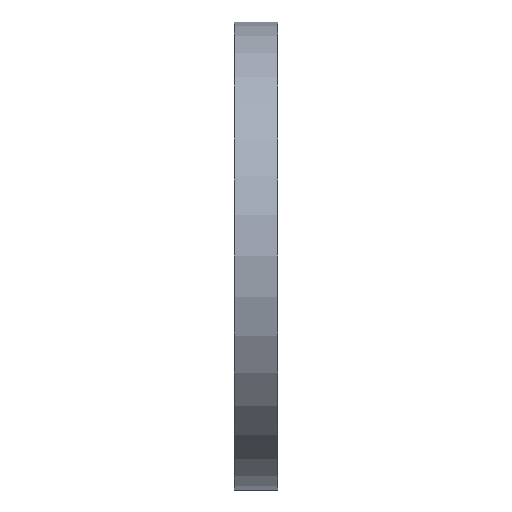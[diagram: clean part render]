
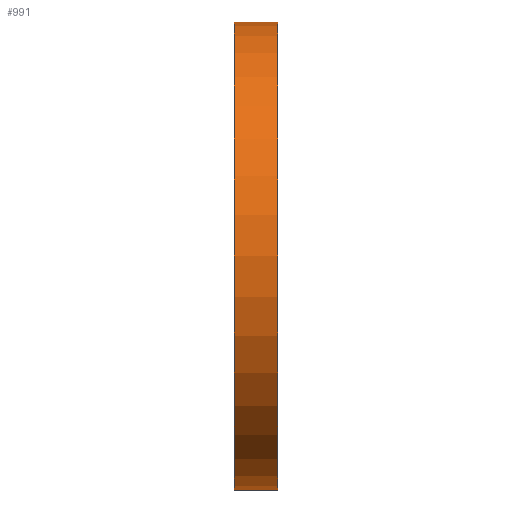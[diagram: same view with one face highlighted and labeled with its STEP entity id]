
A CAD part, left-side view. The second image highlights one B-rep face of the part: STEP entity #991.
In plain terms, the highlighted cylindrical face has radius 225 mm (diameter 450 mm), a partial arc.
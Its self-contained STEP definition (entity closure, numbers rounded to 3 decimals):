
#16 = EDGE_CURVE ( 'NONE', #773, #830, #1001, .T. ) ;
#59 = VERTEX_POINT ( 'NONE', #635 ) ;
#67 = EDGE_LOOP ( 'NONE', ( #336, #511, #1079, #408 ) ) ;
#75 = DIRECTION ( 'NONE',  ( 0., 1., 0. ) ) ;
#129 = AXIS2_PLACEMENT_3D ( 'NONE', #189, #528, #704 ) ;
#157 = LINE ( 'NONE', #513, #697 ) ;
#164 = LINE ( 'NONE', #252, #199 ) ;
#189 = CARTESIAN_POINT ( 'NONE',  ( 0., 0., 0. ) ) ;
#199 = VECTOR ( 'NONE', #423, 1000. ) ;
#252 = CARTESIAN_POINT ( 'NONE',  ( 0., 34.695, 225. ) ) ;
#262 = EDGE_CURVE ( 'NONE', #773, #59, #157, .T. ) ;
#271 = EDGE_CURVE ( 'NONE', #830, #1126, #164, .T. ) ;
#277 = FACE_OUTER_BOUND ( 'NONE', #67, .T. ) ;
#336 = ORIENTED_EDGE ( 'NONE', *, *, #262, .F. ) ;
#358 = CYLINDRICAL_SURFACE ( 'NONE', #1110, 225. ) ;
#408 = ORIENTED_EDGE ( 'NONE', *, *, #743, .F. ) ;
#423 = DIRECTION ( 'NONE',  ( 0., 1., 0. ) ) ;
#511 = ORIENTED_EDGE ( 'NONE', *, *, #16, .T. ) ;
#513 = CARTESIAN_POINT ( 'NONE',  ( 0., 34.695, -225. ) ) ;
#528 = DIRECTION ( 'NONE',  ( 0., 1., 0. ) ) ;
#544 = DIRECTION ( 'NONE',  ( 0., 1., 0. ) ) ;
#627 = CARTESIAN_POINT ( 'NONE',  ( 0., 34.695, 0. ) ) ;
#635 = CARTESIAN_POINT ( 'NONE',  ( 0., 42., -225. ) ) ;
#697 = VECTOR ( 'NONE', #75, 1000. ) ;
#704 = DIRECTION ( 'NONE',  ( 0., 0., 1. ) ) ;
#743 = EDGE_CURVE ( 'NONE', #59, #1126, #892, .T. ) ;
#765 = DIRECTION ( 'NONE',  ( 0., 0., 1. ) ) ;
#771 = CARTESIAN_POINT ( 'NONE',  ( 0., 42., 0. ) ) ;
#773 = VERTEX_POINT ( 'NONE', #775 ) ;
#775 = CARTESIAN_POINT ( 'NONE',  ( 0., 0., -225. ) ) ;
#827 = CARTESIAN_POINT ( 'NONE',  ( 0., 42., 225. ) ) ;
#830 = VERTEX_POINT ( 'NONE', #842 ) ;
#842 = CARTESIAN_POINT ( 'NONE',  ( 0., 0., 225. ) ) ;
#848 = DIRECTION ( 'NONE',  ( 0., 1., 0. ) ) ;
#878 = DIRECTION ( 'NONE',  ( 0., 0., 1. ) ) ;
#892 = CIRCLE ( 'NONE', #1042, 225. ) ;
#991 = ADVANCED_FACE ( 'NONE', ( #277 ), #358, .T. ) ;
#1001 = CIRCLE ( 'NONE', #129, 225. ) ;
#1042 = AXIS2_PLACEMENT_3D ( 'NONE', #771, #848, #765 ) ;
#1079 = ORIENTED_EDGE ( 'NONE', *, *, #271, .T. ) ;
#1110 = AXIS2_PLACEMENT_3D ( 'NONE', #627, #544, #878 ) ;
#1126 = VERTEX_POINT ( 'NONE', #827 ) ;
